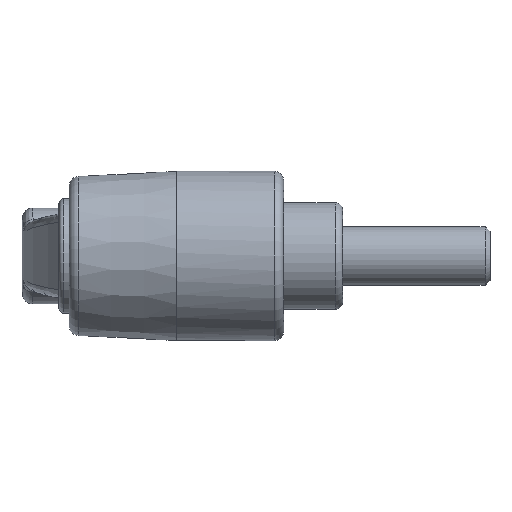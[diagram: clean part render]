
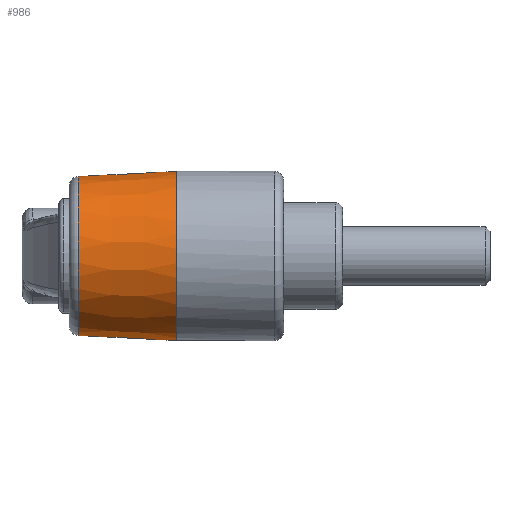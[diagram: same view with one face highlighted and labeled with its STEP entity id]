
A CAD part, left-side view. The second image highlights one B-rep face of the part: STEP entity #986.
In plain terms, the highlighted conical face has half-angle 3 degrees and reference radius 11.5 mm.
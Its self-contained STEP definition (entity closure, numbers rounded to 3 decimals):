
#52=B_SPLINE_CURVE_WITH_KNOTS('',3,(#1572,#1573,#1574,#1575),
 .UNSPECIFIED.,.F.,.F.,(4,4),(0.,0.013),.UNSPECIFIED.);
#53=B_SPLINE_CURVE_WITH_KNOTS('',3,(#1576,#1577,#1578,#1579),
 .UNSPECIFIED.,.F.,.F.,(4,4),(0.,0.013),.UNSPECIFIED.);
#118=CONICAL_SURFACE('',#1109,11.5,0.052);
#212=FACE_OUTER_BOUND('',#273,.T.);
#273=EDGE_LOOP('',(#739,#740,#741,#742));
#352=CIRCLE('',#1100,11.498);
#356=CIRCLE('',#1105,10.802);
#417=VERTEX_POINT('',#1522);
#418=VERTEX_POINT('',#1527);
#422=VERTEX_POINT('',#1539);
#423=VERTEX_POINT('',#1541);
#533=EDGE_CURVE('',#418,#417,#352,.T.);
#538=EDGE_CURVE('',#423,#422,#356,.T.);
#546=EDGE_CURVE('',#422,#418,#52,.T.);
#547=EDGE_CURVE('',#417,#423,#53,.T.);
#739=ORIENTED_EDGE('',*,*,#538,.T.);
#740=ORIENTED_EDGE('',*,*,#546,.T.);
#741=ORIENTED_EDGE('',*,*,#533,.T.);
#742=ORIENTED_EDGE('',*,*,#547,.T.);
#986=ADVANCED_FACE('',(#212),#118,.T.);
#1100=AXIS2_PLACEMENT_3D('',#1528,#1278,#1279);
#1105=AXIS2_PLACEMENT_3D('',#1542,#1288,#1289);
#1109=AXIS2_PLACEMENT_3D('',#1571,#1298,#1299);
#1278=DIRECTION('center_axis',(0.,1.,0.));
#1279=DIRECTION('ref_axis',(0.,0.,1.));
#1288=DIRECTION('center_axis',(0.,-1.,0.));
#1289=DIRECTION('ref_axis',(0.,0.,-1.));
#1298=DIRECTION('center_axis',(0.,-1.,0.));
#1299=DIRECTION('ref_axis',(-1.,0.,0.));
#1522=CARTESIAN_POINT('',(9.357,22.581,6.683));
#1527=CARTESIAN_POINT('',(9.357,22.581,-6.683));
#1528=CARTESIAN_POINT('Origin',(0.,22.581,0.));
#1539=CARTESIAN_POINT('',(8.499,35.861,-6.667));
#1541=CARTESIAN_POINT('',(8.499,35.861,6.667));
#1542=CARTESIAN_POINT('Origin',(0.,35.861,0.));
#1571=CARTESIAN_POINT('Origin',(0.,22.547,0.));
#1572=CARTESIAN_POINT('Ctrl Pts',(8.499,35.861,-6.667));
#1573=CARTESIAN_POINT('Ctrl Pts',(8.789,31.435,-6.673));
#1574=CARTESIAN_POINT('Ctrl Pts',(9.075,27.008,-6.678));
#1575=CARTESIAN_POINT('Ctrl Pts',(9.357,22.581,-6.683));
#1576=CARTESIAN_POINT('Ctrl Pts',(9.357,22.581,6.683));
#1577=CARTESIAN_POINT('Ctrl Pts',(9.075,27.008,6.678));
#1578=CARTESIAN_POINT('Ctrl Pts',(8.789,31.435,6.673));
#1579=CARTESIAN_POINT('Ctrl Pts',(8.499,35.861,6.667));
